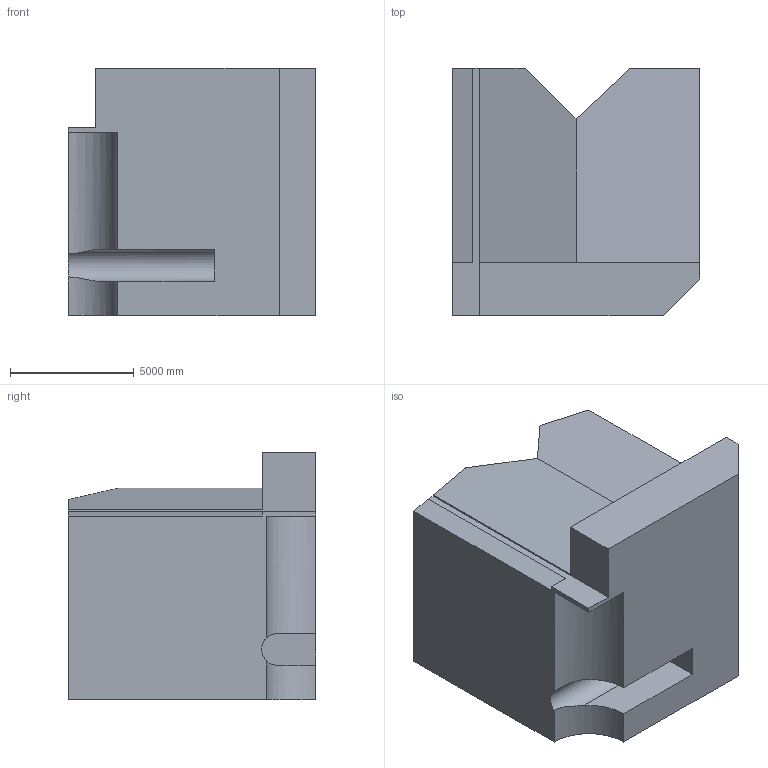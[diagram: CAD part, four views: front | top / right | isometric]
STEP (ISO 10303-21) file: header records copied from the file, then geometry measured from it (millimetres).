
FILE_DESCRIPTION (( 'STEP AP203' ), '1' );
FILE_NAME ('1600.STEP', '2022-08-18T16:04:14', ( 'user' ), ( '' ), 'SwSTEP 2.0', 'SolidWorks 2021', '' );
FILE_SCHEMA (( 'CONFIG_CONTROL_DESIGN' ));
Length unit declared in the file: centimetre
Products named in the file (1): 1600
Bounding box: 10000 x 10000 x 10000 mm (x, y, z)
Volume: 734739655186 mm3; surface area: 598846185.5 mm2
Topology: 1 solids, 1 shells, 31 faces, 83 edges, 55 vertices
Faces by surface type: plane 28, cylinder 3
Entity records: 1112 total; most frequent: CARTESIAN_POINT 254, ORIENTED_EDGE 166, DIRECTION 151, EDGE_CURVE 83, VECTOR 75, LINE 75, VERTEX_POINT 55, AXIS2_PLACEMENT_3D 38
